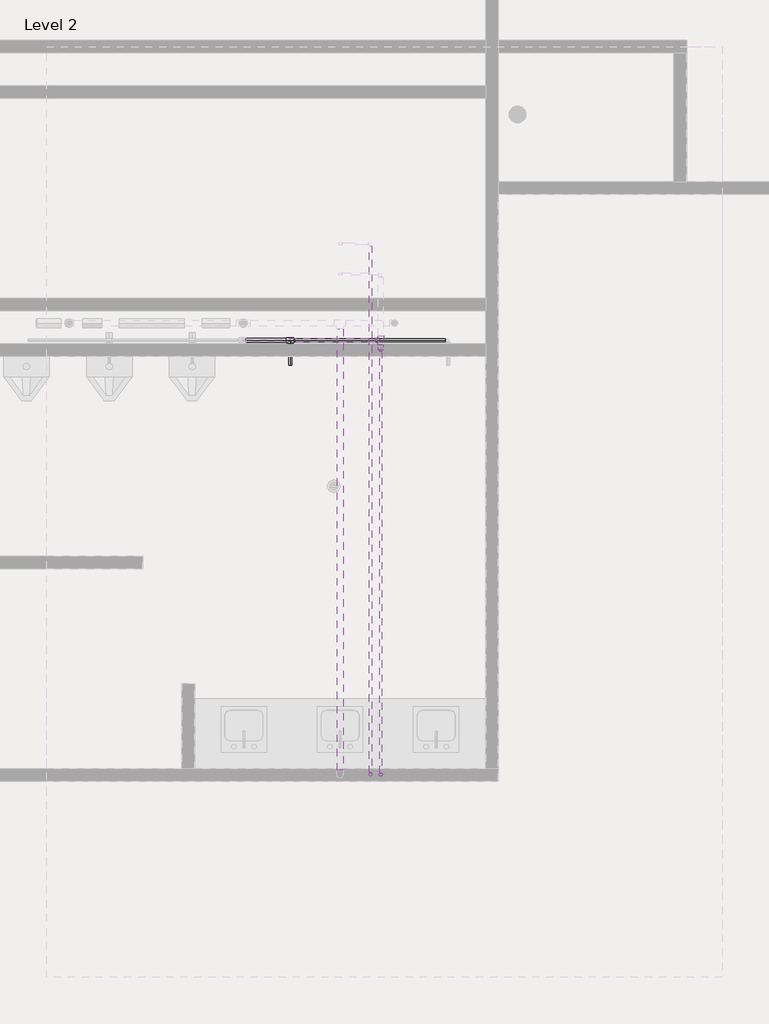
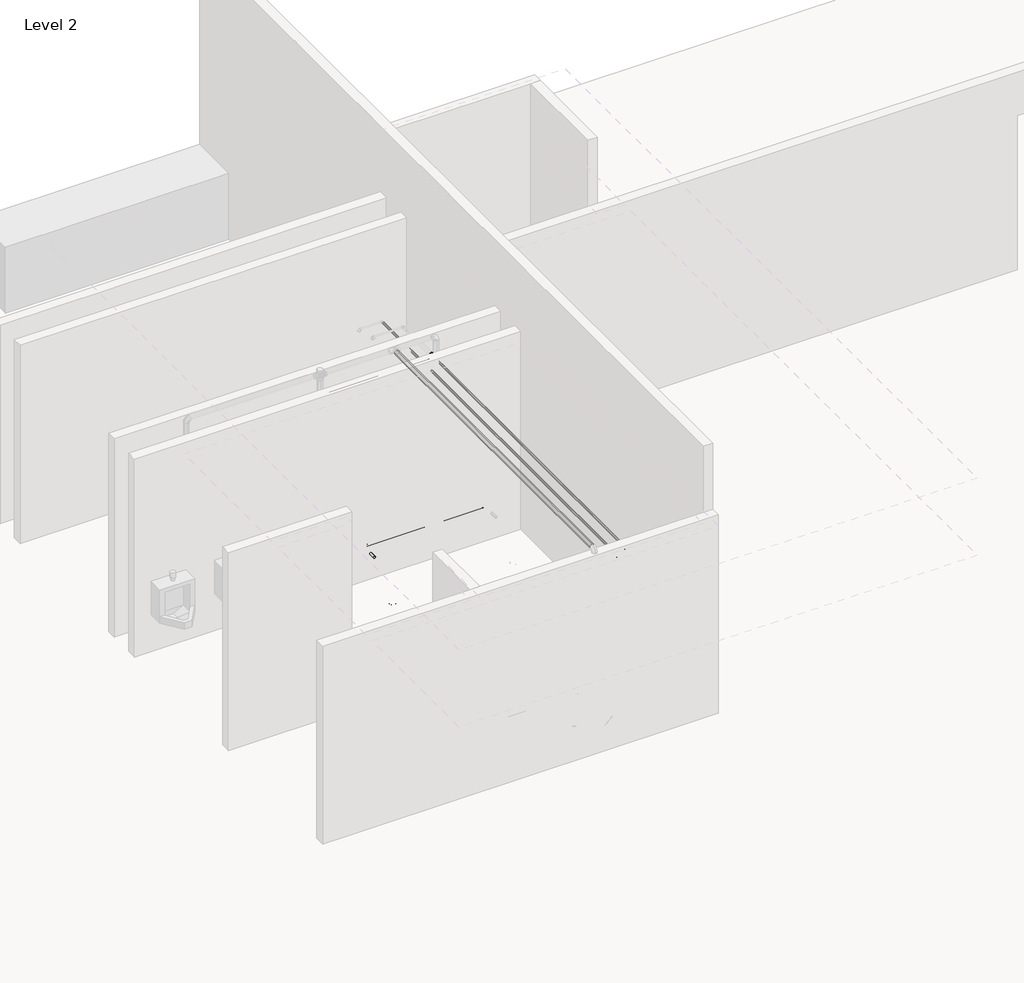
# One storey, part 4 of 5: 28 pipe fittings, 25 pipe segments.
"""IFC4 building model written with IfcOpenShell, lengths in millimetres."""

from ifc_helpers import new_model, si_unit, point, frame, frame_2d, origin, place, context, project, spatial, circle_curve, trimmed, segment, composite_curve, outline, extrude, transform, mapped, element, save
from components import pipe_elbow_standard_aad62f2d, pipe_elbow_standard_feaaf02c, pipe_glued_dwv_bend_standard_cf378dc1, pipe_pvc_bend_standard_a092cd9d, pipe_pvc_plug_standard_a4ad515e, pipe_pvc_transition_eccentric_standard_585967aa, pipe_tee_standard_36278b8a, pipe_tee_standard_ee363fbf, pipe_tee_standard_7127fd44, pipe_tee_standard_1a6ca384, pipe_transition_eccentric_standard_3b8d3413, pipe_transition_eccentric_standard_5a72ba1c, pipe_transition_eccentric_standard_2e591508, pipe_transition_eccentric_standard_c40806be

model = new_model("IFC4")

# Units and contexts
model_context = context("Model", 3, world=origin())
ifc_project = project(units=[si_unit("LENGTHUNIT", "METRE", prefix="MILLI")], contexts=[model_context])

# Site, building, storey
site = spatial("IfcSite", under=ifc_project)
building = spatial("IfcBuilding", under=site)
storey = spatial("IfcBuildingStorey", under=building, Name="Level 2", Elevation=3657.6)

# Pipe fittings
placement = place(None, origin())
pipe_elbow_standard_shape = pipe_elbow_standard_aad62f2d(model_context)
element("IfcPipeFitting", 1, ObjectType="Pipe Elbow : Standard", at=placement, inside=storey, context=model_context, shape_type="MappedRepresentation", body=[
    mapped(pipe_elbow_standard_shape, transform((9813.9157496, 3793.5640359, 4419.6), x_axis=(0.0, 0.0, -1.0), y_axis=(0.0, -1.0, 0.0), z_axis=(-1.0, 0.0, 0.0))),
])
element("IfcPipeFitting", 2, ObjectType="Pipe Elbow : Standard", at=placement, inside=storey, context=model_context, shape_type="MappedRepresentation", body=[
    mapped(pipe_elbow_standard_shape, transform((9813.9157496, 3641.1640359, 4419.6), x_axis=(1.0, 0.0, 0.0), y_axis=(0.0, 1.0, 0.0), z_axis=(0.0, 0.0, 1.0))),
])
element("IfcPipeFitting", 3, ObjectType="Pipe Elbow : Standard", at=placement, inside=storey, context=model_context, shape_type="MappedRepresentation", body=[
    mapped(pipe_elbow_standard_shape, transform((10017.1157496, 3793.5640359, 4522.7875), x_axis=(0.0, 0.0, -1.0), y_axis=(0.0, -1.0, 0.0), z_axis=(-1.0, 0.0, 0.0))),
])
element("IfcPipeFitting", 4, ObjectType="Pipe Elbow : Standard", at=placement, inside=storey, context=model_context, shape_type="MappedRepresentation", body=[
    mapped(pipe_elbow_standard_shape, transform((9051.9157496, 3793.5640359, 4522.7875), x_axis=(0.0, 0.0, -1.0), y_axis=(0.0, -1.0, 0.0), z_axis=(-1.0, 0.0, 0.0))),
])
element("IfcPipeFitting", 5, ObjectType="Pipe Elbow : Standard", at=placement, inside=storey, context=model_context, shape_type="MappedRepresentation", body=[
    mapped(pipe_elbow_standard_shape, transform((10410.8157496, 3590.3640359, 4522.7875), x_axis=(0.0, 0.0, 1.0), y_axis=(-1.0, 0.0, 0.0), z_axis=(0.0, -1.0, 0.0))),
])
pipe_elbow_standard_2_shape = pipe_elbow_standard_feaaf02c(model_context)
element("IfcPipeFitting", 6, ObjectType="Pipe Elbow : Standard", at=placement, inside=storey, context=model_context, shape_type="MappedRepresentation", body=[
    mapped(pipe_elbow_standard_2_shape, transform((9358.8805711, 3508.0672657, 6324.6), x_axis=(0.0, -1.0, 0.0), y_axis=(0.0, 0.0, -1.0), z_axis=(1.0, 0.0, 0.0))),
])
element("IfcPipeFitting", 7, ObjectType="Pipe Elbow : Standard", at=placement, inside=storey, context=model_context, shape_type="MappedRepresentation", body=[
    mapped(pipe_elbow_standard_2_shape, transform((9358.8805711, 3508.0672657, 4419.6), x_axis=(0.0, -1.0, 0.0), y_axis=(0.0, 0.0, 1.0), z_axis=(-1.0, 0.0, 0.0))),
])
element("IfcPipeFitting", 8, ObjectType="Pipe Elbow : Standard", at=placement, inside=storey, context=model_context, shape_type="MappedRepresentation", body=[
    mapped(pipe_elbow_standard_2_shape, transform((9255.1157496, 3510.4099268, 6248.4), x_axis=(0.0, -1.0, 0.0), y_axis=(0.0, 0.0, -1.0), z_axis=(1.0, 0.0, 0.0))),
])
pipe_glued_dwv_bend_standard_shape = pipe_glued_dwv_bend_standard_cf378dc1(model_context)
element("IfcPipeFitting", 9, ObjectType="Pipe Glued DWV Bend : Standard", at=placement, inside=storey, context=model_context, shape_type="MappedRepresentation", body=[
    mapped(pipe_glued_dwv_bend_standard_shape, transform((10499.5591424, 3510.4106959, 3345.1342924), x_axis=(-0.7070851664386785, -0.7070516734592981, 0.010416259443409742), y_axis=(-0.7070522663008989, 0.7071484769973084, 0.004257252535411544), z_axis=(-0.0103759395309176, -0.004354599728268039, -0.9999366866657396))),
])
pipe_pvc_bend_standard_shape = pipe_pvc_bend_standard_a092cd9d(model_context)
element("IfcPipeFitting", 10, ObjectType="Pipe PVC Bend : Standard", at=placement, inside=storey, context=model_context, shape_type="MappedRepresentation", body=[
    mapped(pipe_pvc_bend_standard_shape, transform((8429.6777794, 7187.059932, 3330.1903822), x_axis=(0.0, 0.0, -1.0), y_axis=(0.0, 1.0, 0.0), z_axis=(1.0, 0.0, 0.0))),
])
element("IfcPipeFitting", 11, ObjectType="Pipe PVC Bend : Standard", at=placement, inside=storey, context=model_context, shape_type="MappedRepresentation", body=[
    mapped(pipe_pvc_bend_standard_shape, transform((8886.9621699, 6409.184932, 3333.5298677), x_axis=(0.0, 0.0, -1.0), y_axis=(0.0, 1.0, 0.0), z_axis=(1.0, 0.0, 0.0))),
])
pipe_pvc_plug_standard_shape = pipe_pvc_plug_standard_a4ad515e(model_context)
element("IfcPipeFitting", 12, ObjectType="Pipe PVC Plug : Standard", at=placement, inside=storey, context=model_context, shape_type="MappedRepresentation", body=[
    mapped(pipe_pvc_plug_standard_shape, transform((10732.5801632, 3533.8867514, 3344.3879893), x_axis=(0.0, -0.9999457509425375, 0.010416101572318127), y_axis=(0.0, 0.010416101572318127, 0.9999457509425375), z_axis=(-1.0, 0.0, 0.0))),
])
pipe_pvc_transition_eccentric_standard_shape = pipe_pvc_transition_eccentric_standard_585967aa(model_context)
element("IfcPipeFitting", 13, ObjectType="Pipe PVC Transition Eccentric : Standard", at=placement, inside=storey, context=model_context, shape_type="MappedRepresentation", body=[
    mapped(pipe_pvc_transition_eccentric_standard_shape, transform((8429.6294789, 7869.4149962, 3323.0830201), x_axis=(0.00010848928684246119, -0.9999457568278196, 0.010414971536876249), y_axis=(0.010415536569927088, 0.010415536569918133, 0.9998915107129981), z_axis=(-0.9999457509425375, 0.0, 0.010416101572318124))),
])
element("IfcPipeFitting", 14, ObjectType="Pipe PVC Transition Eccentric : Standard", at=placement, inside=storey, context=model_context, shape_type="MappedRepresentation", body=[
    mapped(pipe_pvc_transition_eccentric_standard_shape, transform((8886.8294737, 7869.4149962, 3318.3205201), x_axis=(0.00010848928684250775, -0.9999457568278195, 0.01041497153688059), y_axis=(0.010415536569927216, 0.010415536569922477, 0.999891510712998), z_axis=(-0.9999457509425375, 0.0, 0.010416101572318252))),
])
pipe_tee_standard_shape = pipe_tee_standard_36278b8a(model_context)
element("IfcPipeFitting", 15, ObjectType="Pipe Tee : Standard", at=placement, inside=storey, context=model_context, shape_type="MappedRepresentation", body=[
    mapped(pipe_tee_standard_shape, transform((9358.8805711, 7874.3862233, 6324.6), x_axis=(0.0, -1.0, 0.0), y_axis=(1.0, 0.0, 0.0), z_axis=(0.0, 0.0, 1.0))),
])
pipe_tee_standard_2_shape = pipe_tee_standard_ee363fbf(model_context)
element("IfcPipeFitting", 16, ObjectType="Pipe Tee : Standard", at=placement, inside=storey, context=model_context, shape_type="MappedRepresentation", body=[
    mapped(pipe_tee_standard_2_shape, transform((9358.8805711, 3641.1640359, 4419.6), x_axis=(1.0, 0.0, 0.0), y_axis=(0.0, 1.0, 0.0), z_axis=(0.0, 0.0, 1.0))),
])
element("IfcPipeFitting", 17, ObjectType="Pipe Tee : Standard", at=placement, inside=storey, context=model_context, shape_type="MappedRepresentation", body=[
    mapped(pipe_tee_standard_2_shape, transform((9255.1157496, 3590.3640359, 4522.7875), x_axis=(1.0, 0.0, 0.0), y_axis=(0.0, 1.0, 0.0), z_axis=(0.0, 0.0, 1.0))),
])
element("IfcPipeFitting", 18, ObjectType="Pipe Tee : Standard", at=placement, inside=storey, context=model_context, shape_type="MappedRepresentation", body=[
    mapped(pipe_tee_standard_2_shape, transform((9255.1157496, 3510.4099268, 4522.7875), x_axis=(0.0, 0.0, -1.0), y_axis=(0.0, -1.0, 0.0), z_axis=(-1.0, 0.0, 0.0))),
])
pipe_tee_standard_3_shape = pipe_tee_standard_7127fd44(model_context)
element("IfcPipeFitting", 19, ObjectType="Pipe Tee : Standard", at=placement, inside=storey, context=model_context, shape_type="MappedRepresentation", body=[
    mapped(pipe_tee_standard_3_shape, transform((8448.727769, 7874.3862233, 4013.2), x_axis=(1.0, 0.0, 0.0), y_axis=(0.0, 1.0, 0.0), z_axis=(0.0, 0.0, 1.0))),
])
pipe_tee_standard_4_shape = pipe_tee_standard_1a6ca384(model_context)
element("IfcPipeFitting", 20, ObjectType="Pipe Tee : Standard", at=placement, inside=storey, context=model_context, shape_type="MappedRepresentation", body=[
    mapped(pipe_tee_standard_4_shape, transform((9051.9157496, 3590.3640359, 4522.7875), x_axis=(1.0, 0.0, 0.0), y_axis=(0.0, -1.0, 0.0), z_axis=(0.0, 0.0, -1.0))),
])
element("IfcPipeFitting", 21, ObjectType="Pipe Tee : Standard", at=placement, inside=storey, context=model_context, shape_type="MappedRepresentation", body=[
    mapped(pipe_tee_standard_4_shape, transform((10017.1157496, 3590.3640359, 4522.7875), x_axis=(1.0, 0.0, 0.0), y_axis=(0.0, -1.0, 0.0), z_axis=(0.0, 0.0, -1.0))),
])
pipe_transition_eccentric_standard_shape = pipe_transition_eccentric_standard_3b8d3413(model_context)
element("IfcPipeFitting", 22, ObjectType="Pipe Transition Eccentric : Standard", at=placement, inside=storey, context=model_context, shape_type="MappedRepresentation", body=[
    mapped(pipe_transition_eccentric_standard_shape, transform((9316.0180711, 7874.3862233, 6324.6), x_axis=(-1.0, 0.0, 0.0), y_axis=(0.0, -1.0, 0.0), z_axis=(0.0, 0.0, 1.0))),
])
pipe_transition_eccentric_standard_2_shape = pipe_transition_eccentric_standard_5a72ba1c(model_context)
element("IfcPipeFitting", 23, ObjectType="Pipe Transition Eccentric : Standard", at=placement, inside=storey, context=model_context, shape_type="MappedRepresentation", body=[
    mapped(pipe_transition_eccentric_standard_2_shape, transform((8485.240269, 7874.3862233, 4013.2), x_axis=(1.0, 0.0, 0.0), y_axis=(0.0, 1.0, 0.0), z_axis=(0.0, 0.0, 1.0))),
])
element("IfcPipeFitting", 24, ObjectType="Pipe Transition Eccentric : Standard", at=placement, inside=storey, context=model_context, shape_type="MappedRepresentation", body=[
    mapped(pipe_transition_eccentric_standard_2_shape, transform((8448.727769, 7837.8737233, 4013.2), x_axis=(0.0, -1.0, 0.0), y_axis=(0.0, 0.0, 1.0), z_axis=(-1.0, 0.0, 0.0))),
])
pipe_transition_eccentric_standard_3_shape = pipe_transition_eccentric_standard_2e591508(model_context)
element("IfcPipeFitting", 25, ObjectType="Pipe Transition Eccentric : Standard", at=placement, inside=storey, context=model_context, shape_type="MappedRepresentation", body=[
    mapped(pipe_transition_eccentric_standard_3_shape, transform((9358.8805711, 7779.1362233, 6324.6), x_axis=(0.0, -1.0, 0.0), y_axis=(-1.0, 0.0, 0.0), z_axis=(0.0, 0.0, -1.0))),
])
pipe_transition_eccentric_standard_4_shape = pipe_transition_eccentric_standard_c40806be(model_context)
element("IfcPipeFitting", 26, ObjectType="Pipe Transition Eccentric : Standard", at=placement, inside=storey, context=model_context, shape_type="MappedRepresentation", body=[
    mapped(pipe_transition_eccentric_standard_4_shape, transform((9385.8680711, 3641.1640359, 4419.6), x_axis=(1.0, 0.0, 0.0), y_axis=(0.0, 1.0, 0.0), z_axis=(0.0, 0.0, 1.0))),
])
element("IfcPipeFitting", 27, ObjectType="Pipe Transition Eccentric : Standard", at=placement, inside=storey, context=model_context, shape_type="MappedRepresentation", body=[
    mapped(pipe_transition_eccentric_standard_4_shape, transform((9228.1282496, 3590.3640359, 4522.7875), x_axis=(-1.0, 0.0, 0.0), y_axis=(0.0, -1.0, 0.0), z_axis=(0.0, 0.0, 1.0))),
])
element("IfcPipeFitting", 28, ObjectType="Pipe Transition Eccentric : Standard", at=placement, inside=storey, context=model_context, shape_type="MappedRepresentation", body=[
    mapped(pipe_transition_eccentric_standard_4_shape, transform((9282.1032496, 3590.3640359, 4522.7875), x_axis=(1.0, 0.0, 0.0), y_axis=(0.0, 1.0, 0.0), z_axis=(0.0, 0.0, 1.0))),
])

# Pipe segments
element("IfcPipeSegment", 29, ObjectType="Cold Water", at=placement, inside=storey, context=model_context, shape_type="SweptSolid", body=[
    extrude(outline(composite_curve([segment(trimmed(circle_curve(frame_2d((3641.1640359, 4419.6)), 11.1125), [point((3630.0515359, 4419.6))], [point((3641.1640359, 4430.7125))], False, "CARTESIAN"), True, "CONTINUOUS"), segment(trimmed(circle_curve(frame_2d((3641.1640359, 4419.6)), 11.1125), [point((3641.1640359, 4430.7125))], [point((3652.2765359, 4419.6))], False, "CARTESIAN"), True, "CONTINUOUS"), segment(trimmed(circle_curve(frame_2d((3641.1640359, 4419.6)), 11.1125), [point((3652.2765359, 4419.6))], [point((3641.1640359, 4408.4875))], False, "CARTESIAN"), True, "CONTINUOUS"), segment(trimmed(circle_curve(frame_2d((3641.1640359, 4419.6)), 11.1125), [point((3641.1640359, 4408.4875))], [point((3630.0515359, 4419.6))], False, "CARTESIAN"), True, "CONTINUOUS")], self_intersect=False)), frame((8875.7032496, 0.0, 0.0), z_axis=(1.0, 0.0, 0.0), x_axis=(0.0, 1.0, 0.0)), (0.0, 0.0, 1.0), 456.1898215),
])
element("IfcPipeSegment", 30, ObjectType="Cold Water", at=placement, inside=storey, context=model_context, shape_type="SweptSolid", body=[
    extrude(outline(composite_curve([segment(trimmed(circle_curve(frame_2d((7874.3862233, 6324.6)), 20.6375), [point((7895.0237233, 6324.6))], [point((7874.3862233, 6303.9625))], False, "CARTESIAN"), True, "CONTINUOUS"), segment(trimmed(circle_curve(frame_2d((7874.3862233, 6324.6)), 20.6375), [point((7874.3862233, 6303.9625))], [point((7853.7487233, 6324.6))], False, "CARTESIAN"), True, "CONTINUOUS"), segment(trimmed(circle_curve(frame_2d((7874.3862233, 6324.6)), 20.6375), [point((7853.7487233, 6324.6))], [point((7874.3862233, 6345.2375))], False, "CARTESIAN"), True, "CONTINUOUS"), segment(trimmed(circle_curve(frame_2d((7874.3862233, 6324.6)), 20.6375), [point((7874.3862233, 6345.2375))], [point((7895.0237233, 6324.6))], False, "CARTESIAN"), True, "CONTINUOUS")], self_intersect=False)), frame((8002.5782496, 0.0, 0.0), z_axis=(1.0, 0.0, 0.0), x_axis=(0.0, 1.0, 0.0)), (0.0, 0.0, 1.0), 1299.9460715),
])
element("IfcPipeSegment", 31, ObjectType="Cold Water", at=placement, inside=storey, context=model_context, shape_type="SweptSolid", body=[
    extrude(outline(composite_curve([segment(trimmed(circle_curve(frame_2d((6324.6, 9358.8805711)), 11.1125), [point((6324.6, 9347.7680711))], [point((6313.4875, 9358.8805711))], False, "CARTESIAN"), True, "CONTINUOUS"), segment(trimmed(circle_curve(frame_2d((6324.6, 9358.8805711)), 11.1125), [point((6313.4875, 9358.8805711))], [point((6324.6, 9369.9930711))], False, "CARTESIAN"), True, "CONTINUOUS"), segment(trimmed(circle_curve(frame_2d((6324.6, 9358.8805711)), 11.1125), [point((6324.6, 9369.9930711))], [point((6335.7125, 9358.8805711))], False, "CARTESIAN"), True, "CONTINUOUS"), segment(trimmed(circle_curve(frame_2d((6324.6, 9358.8805711)), 11.1125), [point((6335.7125, 9358.8805711))], [point((6324.6, 9347.7680711))], False, "CARTESIAN"), True, "CONTINUOUS")], self_intersect=False)), frame((0.0, 3528.7047657, 0.0), z_axis=(0.0, 1.0, 0.0), x_axis=(0.0, 0.0, 1.0)), (0.0, 0.0, 1.0), 4236.9377076),
])
element("IfcPipeSegment", 32, ObjectType="Cold Water", at=placement, inside=storey, context=model_context, shape_type="SweptSolid", body=[
    extrude(outline(composite_curve([segment(trimmed(circle_curve(frame_2d((4013.2, 8448.727769)), 14.2875), [point((4013.2, 8463.015269))], [point((4027.4875, 8448.727769))], False, "CARTESIAN"), True, "CONTINUOUS"), segment(trimmed(circle_curve(frame_2d((4013.2, 8448.727769)), 14.2875), [point((4027.4875, 8448.727769))], [point((4013.2, 8434.440269))], False, "CARTESIAN"), True, "CONTINUOUS"), segment(trimmed(circle_curve(frame_2d((4013.2, 8448.727769)), 14.2875), [point((4013.2, 8434.440269))], [point((3998.9125, 8448.727769))], False, "CARTESIAN"), True, "CONTINUOUS"), segment(trimmed(circle_curve(frame_2d((4013.2, 8448.727769)), 14.2875), [point((3998.9125, 8448.727769))], [point((4013.2, 8463.015269))], False, "CARTESIAN"), True, "CONTINUOUS")], self_intersect=False)), frame((0.0, 7625.2099268, 0.0), z_axis=(0.0, 1.0, 0.0), x_axis=(0.0, 0.0, 1.0)), (0.0, 0.0, 1.0), 202.3450465),
])
element("IfcPipeSegment", 33, ObjectType="Cold Water", at=placement, inside=storey, context=model_context, shape_type="SweptSolid", body=[
    extrude(outline(composite_curve([segment(trimmed(circle_curve(frame_2d((7874.3862233, 4013.2)), 20.6375), [point((7895.0237233, 4013.2))], [point((7874.3862233, 3992.5625))], False, "CARTESIAN"), True, "CONTINUOUS"), segment(trimmed(circle_curve(frame_2d((7874.3862233, 4013.2)), 20.6375), [point((7874.3862233, 3992.5625))], [point((7853.7487233, 4013.2))], False, "CARTESIAN"), True, "CONTINUOUS"), segment(trimmed(circle_curve(frame_2d((7874.3862233, 4013.2)), 20.6375), [point((7853.7487233, 4013.2))], [point((7874.3862233, 4033.8375))], False, "CARTESIAN"), True, "CONTINUOUS"), segment(trimmed(circle_curve(frame_2d((7874.3862233, 4013.2)), 20.6375), [point((7874.3862233, 4033.8375))], [point((7895.0237233, 4013.2))], False, "CARTESIAN"), True, "CONTINUOUS")], self_intersect=False)), frame((8002.5782496, 0.0, 0.0), z_axis=(1.0, 0.0, 0.0), x_axis=(0.0, 1.0, 0.0)), (0.0, 0.0, 1.0), 409.6370193),
])
element("IfcPipeSegment", 34, ObjectType="Cold Water", at=placement, inside=storey, context=model_context, shape_type="SweptSolid", body=[
    extrude(outline(composite_curve([segment(trimmed(circle_curve(frame_2d((7874.3862233, 4013.2)), 14.2875), [point((7888.6737233, 4013.2))], [point((7874.3862233, 3998.9125))], False, "CARTESIAN"), True, "CONTINUOUS"), segment(trimmed(circle_curve(frame_2d((7874.3862233, 4013.2)), 14.2875), [point((7874.3862233, 3998.9125))], [point((7860.0987233, 4013.2))], False, "CARTESIAN"), True, "CONTINUOUS"), segment(trimmed(circle_curve(frame_2d((7874.3862233, 4013.2)), 14.2875), [point((7860.0987233, 4013.2))], [point((7874.3862233, 4027.4875))], False, "CARTESIAN"), True, "CONTINUOUS"), segment(trimmed(circle_curve(frame_2d((7874.3862233, 4013.2)), 14.2875), [point((7874.3862233, 4027.4875))], [point((7888.6737233, 4013.2))], False, "CARTESIAN"), True, "CONTINUOUS")], self_intersect=False)), frame((8495.559019, 0.0, 0.0), z_axis=(1.0, 0.0, 0.0), x_axis=(0.0, 1.0, 0.0)), (0.0, 0.0, 1.0), 1516.85625),
])
element("IfcPipeSegment", 35, ObjectType="Cold Water", at=placement, inside=storey, context=model_context, shape_type="SweptSolid", body=[
    extrude(outline(composite_curve([segment(trimmed(circle_curve(frame_2d((6324.6, 9358.8805711)), 26.9875), [point((6324.6, 9331.8930711))], [point((6297.6125, 9358.8805711))], False, "CARTESIAN"), True, "CONTINUOUS"), segment(trimmed(circle_curve(frame_2d((6324.6, 9358.8805711)), 26.9875), [point((6297.6125, 9358.8805711))], [point((6324.6, 9385.8680711))], False, "CARTESIAN"), True, "CONTINUOUS"), segment(trimmed(circle_curve(frame_2d((6324.6, 9358.8805711)), 26.9875), [point((6324.6, 9385.8680711))], [point((6351.5875, 9358.8805711))], False, "CARTESIAN"), True, "CONTINUOUS"), segment(trimmed(circle_curve(frame_2d((6324.6, 9358.8805711)), 26.9875), [point((6351.5875, 9358.8805711))], [point((6324.6, 9331.8930711))], False, "CARTESIAN"), True, "CONTINUOUS")], self_intersect=False)), frame((0.0, 7779.1362233, 0.0), z_axis=(0.0, 1.0, 0.0), x_axis=(0.0, 0.0, 1.0)), (0.0, 0.0, 1.0), 52.3875),
])
element("IfcPipeSegment", 36, ObjectType="Cold Water", at=placement, inside=storey, context=model_context, shape_type="SweptSolid", body=[
    extrude(outline(composite_curve([segment(trimmed(circle_curve(frame_2d((4419.6, 9358.8805711)), 11.1125), [point((4419.6, 9347.7680711))], [point((4408.4875, 9358.8805711))], False, "CARTESIAN"), True, "CONTINUOUS"), segment(trimmed(circle_curve(frame_2d((4419.6, 9358.8805711)), 11.1125), [point((4408.4875, 9358.8805711))], [point((4419.6, 9369.9930711))], False, "CARTESIAN"), True, "CONTINUOUS"), segment(trimmed(circle_curve(frame_2d((4419.6, 9358.8805711)), 11.1125), [point((4419.6, 9369.9930711))], [point((4430.7125, 9358.8805711))], False, "CARTESIAN"), True, "CONTINUOUS"), segment(trimmed(circle_curve(frame_2d((4419.6, 9358.8805711)), 11.1125), [point((4430.7125, 9358.8805711))], [point((4419.6, 9347.7680711))], False, "CARTESIAN"), True, "CONTINUOUS")], self_intersect=False)), frame((0.0, 3528.7047657, 0.0), z_axis=(0.0, 1.0, 0.0), x_axis=(0.0, 0.0, 1.0)), (0.0, 0.0, 1.0), 85.4717702),
])
element("IfcPipeSegment", 37, ObjectType="Cold Water", at=placement, inside=storey, context=model_context, shape_type="SweptSolid", body=[
    extrude(outline(composite_curve([segment(trimmed(circle_curve(frame_2d((9358.8805711, 3508.0672657)), 11.1125), [point((9347.7680711, 3508.0672657))], [point((9358.8805711, 3519.1797657))], False, "CARTESIAN"), True, "CONTINUOUS"), segment(trimmed(circle_curve(frame_2d((9358.8805711, 3508.0672657)), 11.1125), [point((9358.8805711, 3519.1797657))], [point((9369.9930711, 3508.0672657))], False, "CARTESIAN"), True, "CONTINUOUS"), segment(trimmed(circle_curve(frame_2d((9358.8805711, 3508.0672657)), 11.1125), [point((9369.9930711, 3508.0672657))], [point((9358.8805711, 3496.9547657))], False, "CARTESIAN"), True, "CONTINUOUS"), segment(trimmed(circle_curve(frame_2d((9358.8805711, 3508.0672657)), 11.1125), [point((9358.8805711, 3496.9547657))], [point((9347.7680711, 3508.0672657))], False, "CARTESIAN"), True, "CONTINUOUS")], self_intersect=False)), frame((0.0, 0.0, 4440.2375), z_axis=(0.0, 0.0, 1.0), x_axis=(1.0, 0.0, 0.0)), (0.0, 0.0, 1.0), 1863.725),
])
element("IfcPipeSegment", 38, ObjectType="Hot Water", at=placement, inside=storey, context=model_context, shape_type="SweptSolid", body=[
    extrude(outline(composite_curve([segment(trimmed(circle_curve(frame_2d((6248.4, 9255.1157496)), 11.1125), [point((6248.4, 9244.0032496))], [point((6237.2875, 9255.1157496))], False, "CARTESIAN"), True, "CONTINUOUS"), segment(trimmed(circle_curve(frame_2d((6248.4, 9255.1157496)), 11.1125), [point((6237.2875, 9255.1157496))], [point((6248.4, 9266.2282496))], False, "CARTESIAN"), True, "CONTINUOUS"), segment(trimmed(circle_curve(frame_2d((6248.4, 9255.1157496)), 11.1125), [point((6248.4, 9266.2282496))], [point((6259.5125, 9255.1157496))], False, "CARTESIAN"), True, "CONTINUOUS"), segment(trimmed(circle_curve(frame_2d((6248.4, 9255.1157496)), 11.1125), [point((6259.5125, 9255.1157496))], [point((6248.4, 9244.0032496))], False, "CARTESIAN"), True, "CONTINUOUS")], self_intersect=False)), frame((0.0, 3531.0474268, 0.0), z_axis=(0.0, 1.0, 0.0), x_axis=(0.0, 0.0, 1.0)), (0.0, 0.0, 1.0), 5292.725),
])
element("IfcPipeSegment", 39, ObjectType="Hot Water", at=placement, inside=storey, context=model_context, shape_type="SweptSolid", body=[
    extrude(outline(composite_curve([segment(trimmed(circle_curve(frame_2d((3590.3640359, 4522.7875)), 7.9375), [point((3582.4265359, 4522.7875))], [point((3590.3640359, 4530.725))], False, "CARTESIAN"), True, "CONTINUOUS"), segment(trimmed(circle_curve(frame_2d((3590.3640359, 4522.7875)), 7.9375), [point((3590.3640359, 4530.725))], [point((3598.3015359, 4522.7875))], False, "CARTESIAN"), True, "CONTINUOUS"), segment(trimmed(circle_curve(frame_2d((3590.3640359, 4522.7875)), 7.9375), [point((3598.3015359, 4522.7875))], [point((3590.3640359, 4514.85))], False, "CARTESIAN"), True, "CONTINUOUS"), segment(trimmed(circle_curve(frame_2d((3590.3640359, 4522.7875)), 7.9375), [point((3590.3640359, 4514.85))], [point((3582.4265359, 4522.7875))], False, "CARTESIAN"), True, "CONTINUOUS")], self_intersect=False)), frame((9287.6594996, 0.0, 0.0), z_axis=(1.0, 0.0, 0.0), x_axis=(0.0, 1.0, 0.0)), (0.0, 0.0, 1.0), 705.64375),
])
element("IfcPipeSegment", 40, ObjectType="Hot Water", at=placement, inside=storey, context=model_context, shape_type="SweptSolid", body=[
    extrude(outline(composite_curve([segment(trimmed(circle_curve(frame_2d((4522.7875, 10017.1157496)), 7.9375), [point((4522.7875, 10009.1782496))], [point((4514.85, 10017.1157496))], False, "CARTESIAN"), True, "CONTINUOUS"), segment(trimmed(circle_curve(frame_2d((4522.7875, 10017.1157496)), 7.9375), [point((4514.85, 10017.1157496))], [point((4522.7875, 10025.0532496))], False, "CARTESIAN"), True, "CONTINUOUS"), segment(trimmed(circle_curve(frame_2d((4522.7875, 10017.1157496)), 7.9375), [point((4522.7875, 10025.0532496))], [point((4530.725, 10017.1157496))], False, "CARTESIAN"), True, "CONTINUOUS"), segment(trimmed(circle_curve(frame_2d((4522.7875, 10017.1157496)), 7.9375), [point((4530.725, 10017.1157496))], [point((4522.7875, 10009.1782496))], False, "CARTESIAN"), True, "CONTINUOUS")], self_intersect=False)), frame((0.0, 3614.1765359, 0.0), z_axis=(0.0, 1.0, 0.0), x_axis=(0.0, 0.0, 1.0)), (0.0, 0.0, 1.0), 161.925),
])
element("IfcPipeSegment", 41, ObjectType="Hot Water", at=placement, inside=storey, context=model_context, shape_type="SweptSolid", body=[
    extrude(outline(composite_curve([segment(trimmed(circle_curve(frame_2d((4522.7875, 9051.9157496)), 7.9375), [point((4522.7875, 9043.9782496))], [point((4514.85, 9051.9157496))], False, "CARTESIAN"), True, "CONTINUOUS"), segment(trimmed(circle_curve(frame_2d((4522.7875, 9051.9157496)), 7.9375), [point((4514.85, 9051.9157496))], [point((4522.7875, 9059.8532496))], False, "CARTESIAN"), True, "CONTINUOUS"), segment(trimmed(circle_curve(frame_2d((4522.7875, 9051.9157496)), 7.9375), [point((4522.7875, 9059.8532496))], [point((4530.725, 9051.9157496))], False, "CARTESIAN"), True, "CONTINUOUS"), segment(trimmed(circle_curve(frame_2d((4522.7875, 9051.9157496)), 7.9375), [point((4530.725, 9051.9157496))], [point((4522.7875, 9043.9782496))], False, "CARTESIAN"), True, "CONTINUOUS")], self_intersect=False)), frame((0.0, 3614.1765359, 0.0), z_axis=(0.0, 1.0, 0.0), x_axis=(0.0, 0.0, 1.0)), (0.0, 0.0, 1.0), 161.925),
])
element("IfcPipeSegment", 42, ObjectType="Hot Water", at=placement, inside=storey, context=model_context, shape_type="SweptSolid", body=[
    extrude(outline(composite_curve([segment(trimmed(circle_curve(frame_2d((9255.1157496, 3510.4099268)), 11.1125), [point((9266.2282496, 3510.4099268))], [point((9255.1157496, 3499.2974268))], False, "CARTESIAN"), True, "CONTINUOUS"), segment(trimmed(circle_curve(frame_2d((9255.1157496, 3510.4099268)), 11.1125), [point((9255.1157496, 3499.2974268))], [point((9244.0032496, 3510.4099268))], False, "CARTESIAN"), True, "CONTINUOUS"), segment(trimmed(circle_curve(frame_2d((9255.1157496, 3510.4099268)), 11.1125), [point((9244.0032496, 3510.4099268))], [point((9255.1157496, 3521.5224268))], False, "CARTESIAN"), True, "CONTINUOUS"), segment(trimmed(circle_curve(frame_2d((9255.1157496, 3510.4099268)), 11.1125), [point((9255.1157496, 3521.5224268))], [point((9266.2282496, 3510.4099268))], False, "CARTESIAN"), True, "CONTINUOUS")], self_intersect=False)), frame((0.0, 0.0, 4549.775), z_axis=(0.0, 0.0, 1.0), x_axis=(1.0, 0.0, 0.0)), (0.0, 0.0, 1.0), 1677.9875),
])
element("IfcPipeSegment", 43, ObjectType="Hot Water", at=placement, inside=storey, context=model_context, shape_type="SweptSolid", body=[
    extrude(outline(composite_curve([segment(trimmed(circle_curve(frame_2d((4522.7875, 9255.1157496)), 11.1125), [point((4522.7875, 9244.0032496))], [point((4511.675, 9255.1157496))], False, "CARTESIAN"), True, "CONTINUOUS"), segment(trimmed(circle_curve(frame_2d((4522.7875, 9255.1157496)), 11.1125), [point((4511.675, 9255.1157496))], [point((4522.7875, 9266.2282496))], False, "CARTESIAN"), True, "CONTINUOUS"), segment(trimmed(circle_curve(frame_2d((4522.7875, 9255.1157496)), 11.1125), [point((4522.7875, 9266.2282496))], [point((4533.9, 9255.1157496))], False, "CARTESIAN"), True, "CONTINUOUS"), segment(trimmed(circle_curve(frame_2d((4522.7875, 9255.1157496)), 11.1125), [point((4533.9, 9255.1157496))], [point((4522.7875, 9244.0032496))], False, "CARTESIAN"), True, "CONTINUOUS")], self_intersect=False)), frame((0.0, 3537.3974268, 0.0), z_axis=(0.0, 1.0, 0.0), x_axis=(0.0, 0.0, 1.0)), (0.0, 0.0, 1.0), 25.9791091),
])
element("IfcPipeSegment", 44, ObjectType="Hot Water", at=placement, inside=storey, context=model_context, shape_type="SweptSolid", body=[
    extrude(outline(composite_curve([segment(trimmed(circle_curve(frame_2d((3590.3640359, 4522.7875)), 7.9375), [point((3582.4265359, 4522.7875))], [point((3590.3640359, 4530.725))], False, "CARTESIAN"), True, "CONTINUOUS"), segment(trimmed(circle_curve(frame_2d((3590.3640359, 4522.7875)), 7.9375), [point((3590.3640359, 4530.725))], [point((3598.3015359, 4522.7875))], False, "CARTESIAN"), True, "CONTINUOUS"), segment(trimmed(circle_curve(frame_2d((3590.3640359, 4522.7875)), 7.9375), [point((3598.3015359, 4522.7875))], [point((3590.3640359, 4514.85))], False, "CARTESIAN"), True, "CONTINUOUS"), segment(trimmed(circle_curve(frame_2d((3590.3640359, 4522.7875)), 7.9375), [point((3590.3640359, 4514.85))], [point((3582.4265359, 4522.7875))], False, "CARTESIAN"), True, "CONTINUOUS")], self_intersect=False)), frame((9075.7282496, 0.0, 0.0), z_axis=(1.0, 0.0, 0.0), x_axis=(0.0, 1.0, 0.0)), (0.0, 0.0, 1.0), 146.84375),
])
element("IfcPipeSegment", 45, ObjectType="Hot Water", at=placement, inside=storey, context=model_context, shape_type="SweptSolid", body=[
    extrude(outline(composite_curve([segment(trimmed(circle_curve(frame_2d((3590.3640359, 4522.7875)), 7.9375), [point((3598.3015359, 4522.7875))], [point((3590.3640359, 4514.85))], False, "CARTESIAN"), True, "CONTINUOUS"), segment(trimmed(circle_curve(frame_2d((3590.3640359, 4522.7875)), 7.9375), [point((3590.3640359, 4514.85))], [point((3582.4265359, 4522.7875))], False, "CARTESIAN"), True, "CONTINUOUS"), segment(trimmed(circle_curve(frame_2d((3590.3640359, 4522.7875)), 7.9375), [point((3582.4265359, 4522.7875))], [point((3590.3640359, 4530.725))], False, "CARTESIAN"), True, "CONTINUOUS"), segment(trimmed(circle_curve(frame_2d((3590.3640359, 4522.7875)), 7.9375), [point((3590.3640359, 4530.725))], [point((3598.3015359, 4522.7875))], False, "CARTESIAN"), True, "CONTINUOUS")], self_intersect=False)), frame((10040.9282496, 0.0, 0.0), z_axis=(1.0, 0.0, 0.0), x_axis=(0.0, 1.0, 0.0)), (0.0, 0.0, 1.0), 352.425),
])
element("IfcPipeSegment", 46, ObjectType="Hot Water", at=placement, inside=storey, context=model_context, shape_type="SweptSolid", body=[
    extrude(outline(composite_curve([segment(trimmed(circle_curve(frame_2d((10410.8157496, 3590.3640359)), 7.9375), [point((10402.8782496, 3590.3640359))], [point((10410.8157496, 3598.3015359))], False, "CARTESIAN"), True, "CONTINUOUS"), segment(trimmed(circle_curve(frame_2d((10410.8157496, 3590.3640359)), 7.9375), [point((10410.8157496, 3598.3015359))], [point((10418.7532496, 3590.3640359))], False, "CARTESIAN"), True, "CONTINUOUS"), segment(trimmed(circle_curve(frame_2d((10410.8157496, 3590.3640359)), 7.9375), [point((10418.7532496, 3590.3640359))], [point((10410.8157496, 3582.4265359))], False, "CARTESIAN"), True, "CONTINUOUS"), segment(trimmed(circle_curve(frame_2d((10410.8157496, 3590.3640359)), 7.9375), [point((10410.8157496, 3582.4265359))], [point((10402.8782496, 3590.3640359))], False, "CARTESIAN"), True, "CONTINUOUS")], self_intersect=False)), frame((0.0, 0.0, 2616.99375), z_axis=(0.0, 0.0, 1.0), x_axis=(1.0, 0.0, 0.0)), (0.0, 0.0, 1.0), 1888.33125),
])
element("IfcPipeSegment", 47, ObjectType="PVC Sanitary", at=placement, inside=storey, context=model_context, shape_type="SweptSolid", body=[
    extrude(outline(composite_curve([segment(trimmed(circle_curve(frame_2d((0.0, 44.4499999)), 44.45), [point((-44.4500001, 44.4499497))], [point((-5.02e-05, 88.9))], False, "CARTESIAN"), True, "CONTINUOUS"), segment(trimmed(circle_curve(frame_2d((0.0, 44.4499999)), 44.45), [point((-5.02e-05, 88.9))], [point((44.45, 44.4500502))], False, "CARTESIAN"), True, "CONTINUOUS"), segment(trimmed(circle_curve(frame_2d((0.0, 44.4499999)), 44.45), [point((44.45, 44.4500502))], [point((5.02e-05, 0.0))], False, "CARTESIAN"), True, "CONTINUOUS"), segment(trimmed(circle_curve(frame_2d((0.0, 44.4499999)), 44.45), [point((5.02e-05, 0.0))], [point((-44.4500001, 44.4499497))], False, "CARTESIAN"), True, "CONTINUOUS")], self_intersect=False)), frame((8429.6161658, 7814.1862716, 3279.2060465), z_axis=(0.00010848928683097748, -0.9999457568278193, 0.010414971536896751), x_axis=(0.9999999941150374, 0.00010848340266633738, -1.1299128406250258e-06)), (0.0, 0.0, 1.0), 567.9234424),
])
element("IfcPipeSegment", 48, ObjectType="PVC Sanitary", at=placement, inside=storey, context=model_context, shape_type="SweptSolid", body=[
    extrude(outline(composite_curve([segment(trimmed(circle_curve(frame_2d((0.0, -44.45)), 44.45), [point((-44.45, -44.45))], [point((0.0, 0.0))], False, "CARTESIAN"), True, "CONTINUOUS"), segment(trimmed(circle_curve(frame_2d((0.0, -44.45)), 44.45), [point((0.0, 0.0))], [point((44.45, -44.45))], False, "CARTESIAN"), True, "CONTINUOUS"), segment(trimmed(circle_curve(frame_2d((0.0, -44.45)), 44.45), [point((44.45, -44.45))], [point((0.0, -88.9))], False, "CARTESIAN"), True, "CONTINUOUS"), segment(trimmed(circle_curve(frame_2d((0.0, -44.45)), 44.45), [point((0.0, -88.9))], [point((-44.45, -44.45))], False, "CARTESIAN"), True, "CONTINUOUS")], self_intersect=False)), frame((8429.6777794, 7142.609932, 3389.8902687), z_axis=(-3.898322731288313e-08, -1.949263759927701e-08, 0.999999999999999), x_axis=(-0.9999999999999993, 0.0, -3.8983227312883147e-08)), (0.0, 0.0, 1.0), 267.7097304),
])
element("IfcPipeSegment", 49, ObjectType="PVC Sanitary", at=placement, inside=storey, context=model_context, shape_type="SweptSolid", body=[
    extrude(outline(composite_curve([segment(trimmed(circle_curve(frame_2d((0.0, 44.45)), 44.45), [point((-44.4500001, 44.4499498))], [point((-5.03e-05, 88.9))], False, "CARTESIAN"), True, "CONTINUOUS"), segment(trimmed(circle_curve(frame_2d((0.0, 44.45)), 44.45), [point((-5.03e-05, 88.9))], [point((44.45, 44.4500503))], False, "CARTESIAN"), True, "CONTINUOUS"), segment(trimmed(circle_curve(frame_2d((0.0, 44.45)), 44.45), [point((44.45, 44.4500503))], [point((5.02e-05, 0.0))], False, "CARTESIAN"), True, "CONTINUOUS"), segment(trimmed(circle_curve(frame_2d((0.0, 44.45)), 44.45), [point((5.02e-05, 0.0))], [point((-44.4500001, 44.4499498))], False, "CARTESIAN"), True, "CONTINUOUS")], self_intersect=False)), frame((8886.8161606, 7814.1862716, 3274.4435465), z_axis=(0.00010848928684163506, -0.9999457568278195, 0.010414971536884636), x_axis=(0.9999999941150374, 0.00010848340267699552, -1.1299128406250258e-06)), (0.0, 0.0, 1.0), 1345.8406391),
])
element("IfcPipeSegment", 50, ObjectType="PVC Sanitary", at=placement, inside=storey, context=model_context, shape_type="SweptSolid", body=[
    extrude(outline(composite_curve([segment(trimmed(circle_curve(frame_2d((0.0, -44.45)), 44.45), [point((-44.45, -44.45))], [point((0.0, 0.0))], False, "CARTESIAN"), True, "CONTINUOUS"), segment(trimmed(circle_curve(frame_2d((0.0, -44.45)), 44.45), [point((0.0, 0.0))], [point((44.45, -44.45))], False, "CARTESIAN"), True, "CONTINUOUS"), segment(trimmed(circle_curve(frame_2d((0.0, -44.45)), 44.45), [point((44.45, -44.45))], [point((0.0, -88.9))], False, "CARTESIAN"), True, "CONTINUOUS"), segment(trimmed(circle_curve(frame_2d((0.0, -44.45)), 44.45), [point((0.0, -88.9))], [point((-44.45, -44.45))], False, "CARTESIAN"), True, "CONTINUOUS")], self_intersect=False)), frame((8886.9621699, 6364.734932, 3393.2297535), z_axis=(-3.630939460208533e-08, -3.6309204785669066e-08, 0.9999999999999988), x_axis=(-0.9999999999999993, 0.0, -3.630939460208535e-08)), (0.0, 0.0, 1.0), 143.7202449),
])
element("IfcPipeSegment", 51, ObjectType="PVC Sanitary", at=placement, inside=storey, context=model_context, shape_type="SweptSolid", body=[
    extrude(outline(composite_curve([segment(trimmed(circle_curve(frame_2d((0.0, 57.15)), 57.15), [point((-57.15, 57.15))], [point((0.0, 114.3000001))], False, "CARTESIAN"), True, "CONTINUOUS"), segment(trimmed(circle_curve(frame_2d((0.0, 57.15)), 57.15), [point((0.0, 114.3000001))], [point((57.15, 57.15))], False, "CARTESIAN"), True, "CONTINUOUS"), segment(trimmed(circle_curve(frame_2d((0.0, 57.15)), 57.15), [point((57.15, 57.15))], [point((0.0, 0.0))], False, "CARTESIAN"), True, "CONTINUOUS"), segment(trimmed(circle_curve(frame_2d((0.0, 57.15)), 57.15), [point((0.0, 0.0))], [point((-57.15, 57.15))], False, "CARTESIAN"), True, "CONTINUOUS")], self_intersect=False)), frame((10732.5801632, 7957.0599849, 3241.1601676), z_axis=(0.0, -0.9999457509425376, 0.010416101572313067), x_axis=(1.0, 0.0, 0.0)), (0.0, 0.0, 1.0), 4149.371012),
])
element("IfcPipeSegment", 52, ObjectType="PVC Sanitary", at=placement, inside=storey, context=model_context, shape_type="SweptSolid", body=[
    extrude(outline(composite_curve([segment(trimmed(circle_curve(frame_2d((0.0, 30.1625001)), 30.1625), [point((-30.1608637, 30.4766783))], [point((0.3141783, 60.3233637))], False, "CARTESIAN"), True, "CONTINUOUS"), segment(trimmed(circle_curve(frame_2d((0.0, 30.1625001)), 30.1625), [point((0.3141783, 60.3233637))], [point((30.1608637, 29.8483218))], False, "CARTESIAN"), True, "CONTINUOUS"), segment(trimmed(circle_curve(frame_2d((0.0, 30.1625001)), 30.1625), [point((30.1608637, 29.8483218))], [point((-0.3141783, 0.0016363))], False, "CARTESIAN"), True, "CONTINUOUS"), segment(trimmed(circle_curve(frame_2d((0.0, 30.1625001)), 30.1625), [point((-0.3141783, 0.0016363))], [point((-30.1608637, 30.4766783))], False, "CARTESIAN"), True, "CONTINUOUS")], self_intersect=False)), frame((10615.8395877, 3626.2413286, 3313.2621068), z_axis=(-0.7070851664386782, -0.7070516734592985, 0.01041625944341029), x_axis=(0.7071283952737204, -0.7070084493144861, 0.010415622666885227)), (0.0, 0.0, 1.0), 91.9828818),
])
element("IfcPipeSegment", 53, ObjectType="PVC Sanitary Vent", at=placement, inside=storey, context=model_context, shape_type="SweptSolid", body=[
    extrude(outline(composite_curve([segment(trimmed(circle_curve(frame_2d((6451.6, 8950.2947657)), 30.1625), [point((6451.6, 8920.1322657))], [point((6421.4375, 8950.2947657))], False, "CARTESIAN"), True, "CONTINUOUS"), segment(trimmed(circle_curve(frame_2d((6451.6, 8950.2947657)), 30.1625), [point((6421.4375, 8950.2947657))], [point((6451.6, 8980.4572657))], False, "CARTESIAN"), True, "CONTINUOUS"), segment(trimmed(circle_curve(frame_2d((6451.6, 8950.2947657)), 30.1625), [point((6451.6, 8980.4572657))], [point((6481.7625, 8950.2947657))], False, "CARTESIAN"), True, "CONTINUOUS"), segment(trimmed(circle_curve(frame_2d((6451.6, 8950.2947657)), 30.1625), [point((6481.7625, 8950.2947657))], [point((6451.6, 8920.1322657))], False, "CARTESIAN"), True, "CONTINUOUS")], self_intersect=False)), frame((0.0, 3556.4474268, 0.0), z_axis=(0.0, 1.0, 0.0), x_axis=(0.0, 0.0, 1.0)), (0.0, 0.0, 1.0), 4432.0724804),
])

save(model, "model.ifc")
